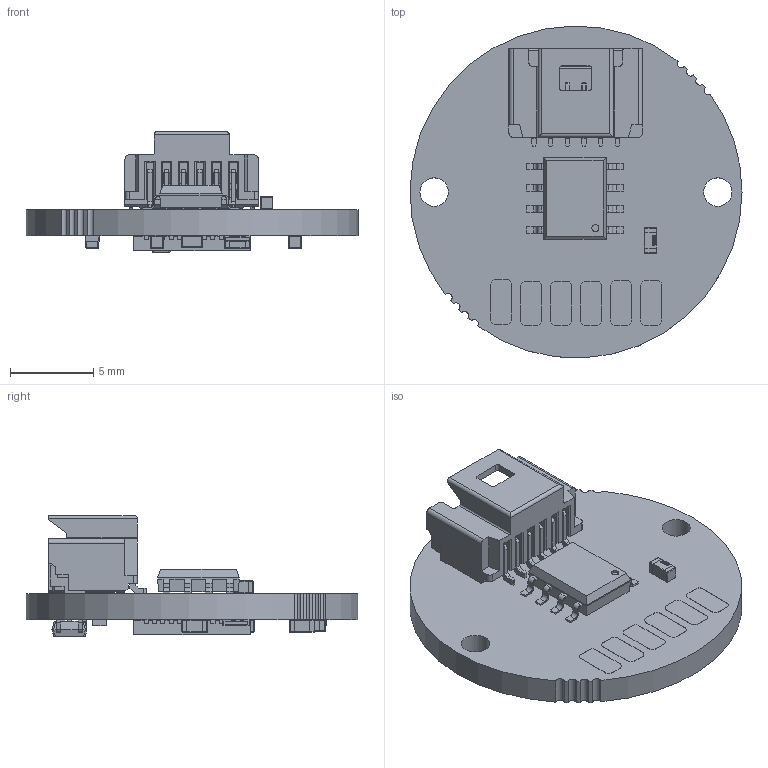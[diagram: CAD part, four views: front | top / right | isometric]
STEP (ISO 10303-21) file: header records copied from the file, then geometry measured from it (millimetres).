
FILE_DESCRIPTION(('Open CASCADE Model'),'2;1');
FILE_NAME('Open CASCADE Shape Model','2021-06-15T09:55:44',('Author'),( 'Open CASCADE'),'Open CASCADE STEP processor 6.8','Open CASCADE 6.8' ,'Unknown');
FILE_SCHEMA(('AUTOMOTIVE_DESIGN { 1 0 10303 214 1 1 1 1 }'));
Length unit declared in the file: millimetre
Products named in the file (35): PCB; Board; K5; 5015680607; Open CASCADE STEP translator 6.8 1.2.1.1; Open CASCADE STEP translator 6.8 1.2.1.2; IC1; QFN48_7x7; R4; SW3dPS-R0603; R3; R2; R1; L1; K12; 6650502720; Extruded; K11; K4; K3; K2; K1; IC4; SW3DPS-SO-8-DEFAULT; IC2; SOT353; C8; C0805; C7; C0603; C6; C4; C3; C2; C1
Assembly tree (48 placements, depth 4):
  PCB
    Board
    K5
      5015680607
        Open CASCADE STEP translator 6.8 1.2.1.1
        Open CASCADE STEP translator 6.8 1.2.1.2
    IC1
      QFN48_7x7
    R4
      SW3dPS-R0603
    R3
      SW3dPS-R0603
    R2
      SW3dPS-R0603
    R1
      SW3dPS-R0603
    L1
      SW3dPS-R0603
    K12
      6650502720
        Extruded
    K11
      6650502720
        Extruded
    K4
      6650502720
        Extruded
    K3
      6650502720
        Extruded
    K2
      6650502720
        Extruded
    K1
      6650502720
        Extruded
    IC4
      SW3DPS-SO-8-DEFAULT
    IC2
      SOT353
    C8
      C0805
    C7
      C0603
    C6
      C0603
    C4
      C0603
    C3
      C0603
    C2
      C0603
    C1
      C0603
Bounding box: 19.9 x 19.89 x 7.24 mm (x, y, z)
Volume: 633.6 mm3; surface area: 1423.7 mm2
Topology: 37 solids, 37 shells, 2352 faces, 6309 edges, 4078 vertices
Faces by surface type: plane 1502, bspline 421, cylinder 377, cone 52
Full cylindrical faces by diameter (mm): 1.7 x2
Entity records: 57395 total; most frequent: CARTESIAN_POINT 16278, ORIENTED_EDGE 7978, DIRECTION 7129, EDGE_CURVE 3989, LINE 3219, VECTOR 3219, VERTEX_POINT 2568, AXIS2_PLACEMENT_3D 1955
